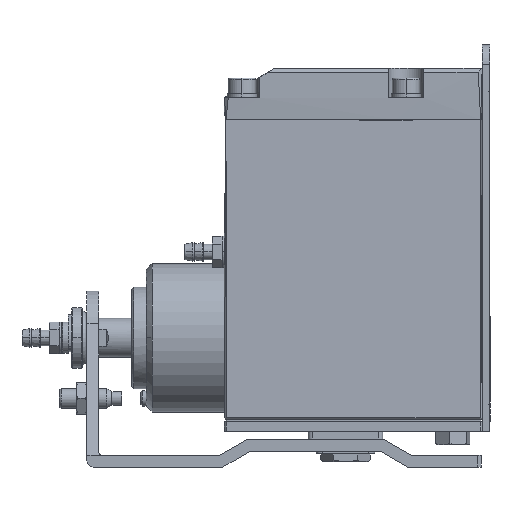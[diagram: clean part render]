
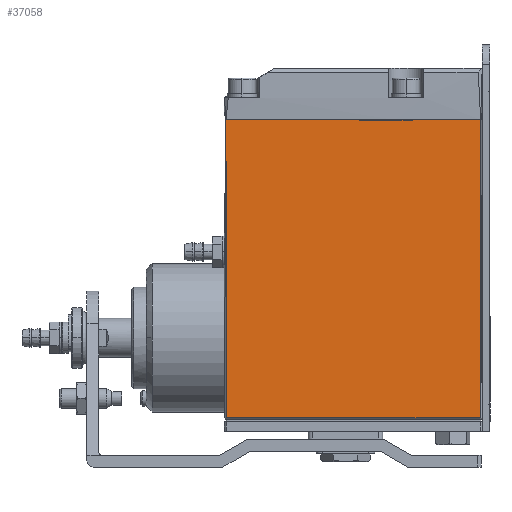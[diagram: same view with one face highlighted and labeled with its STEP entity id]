
A CAD part, left-side view. The second image highlights one B-rep face of the part: STEP entity #37058.
In plain terms, the highlighted planar face has unit normal (-1, 0, 0).
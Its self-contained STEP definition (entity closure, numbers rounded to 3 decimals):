
#1280 = CARTESIAN_POINT ( 'NONE',  ( 0., 0.5, 38.5 ) ) ;
#1701 = EDGE_CURVE ( 'NONE', #57148, #20005, #54994, .T. ) ;
#4532 = CARTESIAN_POINT ( 'NONE',  ( 0., 0.5, 0.5 ) ) ;
#5930 = DIRECTION ( 'NONE',  ( 0., 0., 1. ) ) ;
#7024 = CARTESIAN_POINT ( 'NONE',  ( 0., 65.5, 0.5 ) ) ;
#9587 = ORIENTED_EDGE ( 'NONE', *, *, #55662, .T. ) ;
#10884 = AXIS2_PLACEMENT_3D ( 'NONE', #20629, #52572, #25261 ) ;
#14756 = CARTESIAN_POINT ( 'NONE',  ( 0., 65.5, 38.5 ) ) ;
#15728 = DIRECTION ( 'NONE',  ( 0., 1., 0. ) ) ;
#18411 = VECTOR ( 'NONE', #51070, 1000. ) ;
#19393 = DIRECTION ( 'NONE',  ( 0., 0., -1. ) ) ;
#20005 = VERTEX_POINT ( 'NONE', #7024 ) ;
#20298 = VERTEX_POINT ( 'NONE', #55607 ) ;
#20629 = CARTESIAN_POINT ( 'NONE',  ( 0., -6., -7.1 ) ) ;
#21668 = EDGE_CURVE ( 'NONE', #20298, #30513, #22286, .T. ) ;
#22286 = LINE ( 'NONE', #47236, #44958 ) ;
#24835 = VECTOR ( 'NONE', #19393, 1000. ) ;
#25108 = ORIENTED_EDGE ( 'NONE', *, *, #21668, .T. ) ;
#25261 = DIRECTION ( 'NONE',  ( 0., 0., 1. ) ) ;
#26618 = ORIENTED_EDGE ( 'NONE', *, *, #1701, .F. ) ;
#29554 = ORIENTED_EDGE ( 'NONE', *, *, #31353, .T. ) ;
#30513 = VERTEX_POINT ( 'NONE', #56819 ) ;
#31120 = FACE_OUTER_BOUND ( 'NONE', #34956, .T. ) ;
#31353 = EDGE_CURVE ( 'NONE', #30513, #20005, #50468, .T. ) ;
#34212 = PLANE ( 'NONE',  #10884 ) ;
#34956 = EDGE_LOOP ( 'NONE', ( #26618, #9587, #25108, #29554 ) ) ;
#37058 = ADVANCED_FACE ( 'NONE', ( #31120 ), #34212, .T. ) ;
#42691 = LINE ( 'NONE', #1280, #53562 ) ;
#44958 = VECTOR ( 'NONE', #15728, 1000. ) ;
#47236 = CARTESIAN_POINT ( 'NONE',  ( 0., 33., 76.5 ) ) ;
#50294 = CARTESIAN_POINT ( 'NONE',  ( 0., 33., 0.5 ) ) ;
#50468 = LINE ( 'NONE', #14756, #24835 ) ;
#51070 = DIRECTION ( 'NONE',  ( 0., 1., 0. ) ) ;
#52572 = DIRECTION ( 'NONE',  ( -1., 0., 0. ) ) ;
#53562 = VECTOR ( 'NONE', #5930, 1000. ) ;
#54994 = LINE ( 'NONE', #50294, #18411 ) ;
#55607 = CARTESIAN_POINT ( 'NONE',  ( 0.408, 0.408, 76.815 ) ) ;
#55662 = EDGE_CURVE ( 'NONE', #57148, #20298, #42691, .T. ) ;
#56819 = CARTESIAN_POINT ( 'NONE',  ( 0.408, 65.592, 76.815 ) ) ;
#57148 = VERTEX_POINT ( 'NONE', #4532 ) ;
